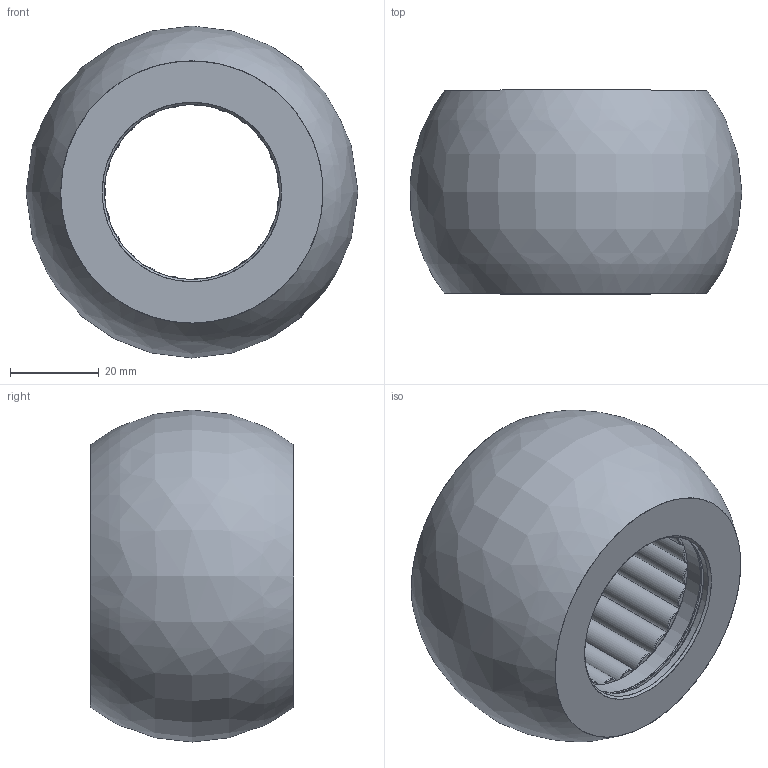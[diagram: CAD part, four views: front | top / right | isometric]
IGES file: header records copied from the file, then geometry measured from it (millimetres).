
Start section: Missler Software 3 rue Hermes, EUROPARC, 31520 Ramonville-Saint-Agne, France Tel   : +33 (0)5 61 00 03 00 Fax   : +33 (0)5 61 00 03 03 Email : sup.solid@topsolid.com
Global section: file name: C:\Projets\Serie 15.xx.xx\15.xx.39.igs; native system: TopSolid v611200 Missler Software; preprocessor: IGES preprocessor v100000; author: TAPIN; date: 111114.154137; units: millimetre
Bounding box: 74.95 x 46 x 75 mm (x, y, z)
Surface area: 59522.1 mm2 (no closed solid volume)
Topology: 0 solids, 0 shells, 339 faces, 5407 edges, 5226 vertices
Faces by surface type: bspline 339
